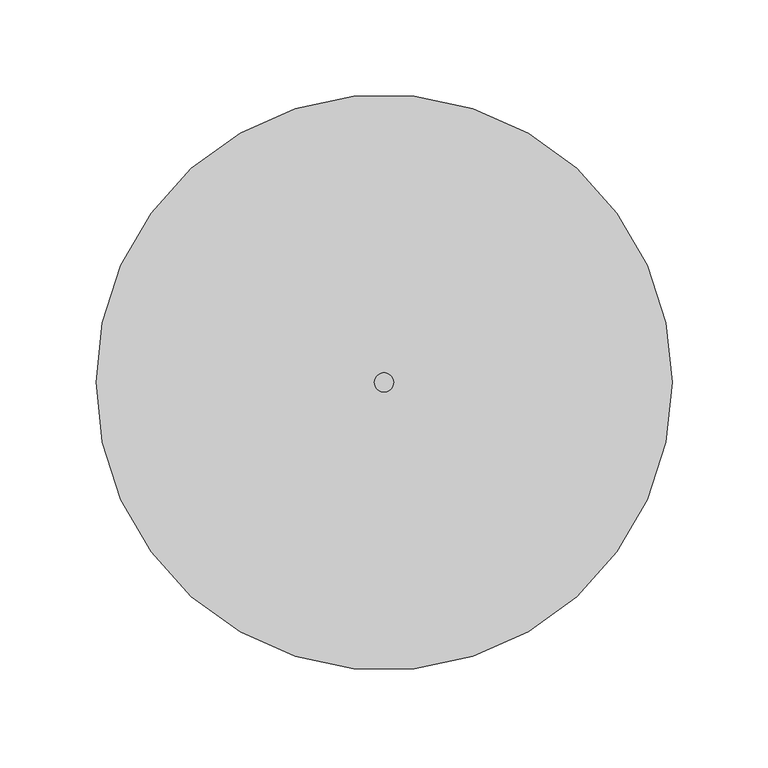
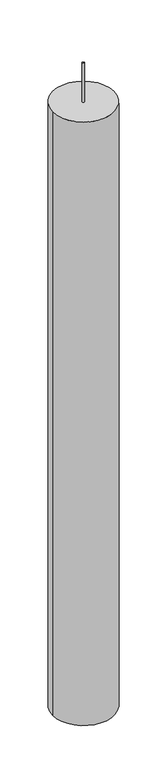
"""IFC4 building model written with IfcOpenShell, lengths in millimetres: proxy geometry, ITA-Palo di fondazione con Amphibia passante : ITA-Palo di fondazione con Amphibia passante."""

from ifc_helpers import new_model, si_unit, point, frame, origin, origin_with_axes, origin_2d, place, context, project, spatial, circle_curve, trimmed, segment, composite_curve, outline, extrude, source, transform, mapped, element, save


def generic_models_04229b53(model_context):
    return source(origin(), model_context, "Body", "SweptSolid", [
        extrude(outline(composite_curve([segment(trimmed(circle_curve(origin_2d(), 5.0), [point((-5.0, 0.0))], [point((5.0, 0.0))], False, "CARTESIAN"), True, "CONTINUOUS"), segment(trimmed(circle_curve(origin_2d(), 5.0), [point((5.0, 0.0))], [point((-5.0, 0.0))], False, "CARTESIAN"), True, "CONTINUOUS")], self_intersect=False)), origin_with_axes(), (0.0, 0.0, 1.0), 200.0),
        extrude(outline(composite_curve([segment(trimmed(circle_curve(origin_2d(), 150.0), [point((-150.0, 0.0))], [point((150.0, 0.0))], False, "CARTESIAN"), True, "CONTINUOUS"), segment(trimmed(circle_curve(origin_2d(), 150.0), [point((150.0, 0.0))], [point((-150.0, 0.0))], False, "CARTESIAN"), True, "CONTINUOUS")], self_intersect=False)), frame((0.0, 0.0, -3100.0), z_axis=(0.0, 0.0, 1.0), x_axis=(1.0, 0.0, 0.0)), (0.0, 0.0, 1.0), 3100.0),
    ])


if __name__ == "__main__":
    model = new_model("IFC4")
    model_context = context("Model", 3, world=origin())
    ifc_project = project(units=[si_unit("LENGTHUNIT", "METRE", prefix="MILLI")], contexts=[model_context])
    site = spatial("IfcSite", under=ifc_project)
    building = spatial("IfcBuilding", under=site)
    placement = place(None, origin())
    generic_models_shape = generic_models_04229b53(model_context)
    element("IfcBuildingElementProxy", 1, Name="ITA-Palo di fondazione con Amphibia passante : ITA-Palo di fondazione con Amphibia passante", ObjectType="ITA-Palo di fondazione con Amphibia passante : ITA-Palo di fondazione con Amphibia passante", at=placement, inside=building, context=model_context, shape_type="MappedRepresentation", body=[
        mapped(generic_models_shape, transform((0.0, 0.0, 0.0), x_axis=(1.0, 0.0, 0.0), y_axis=(0.0, 1.0, 0.0), z_axis=(0.0, 0.0, 1.0))),
    ])
    save(model, "model.ifc")
